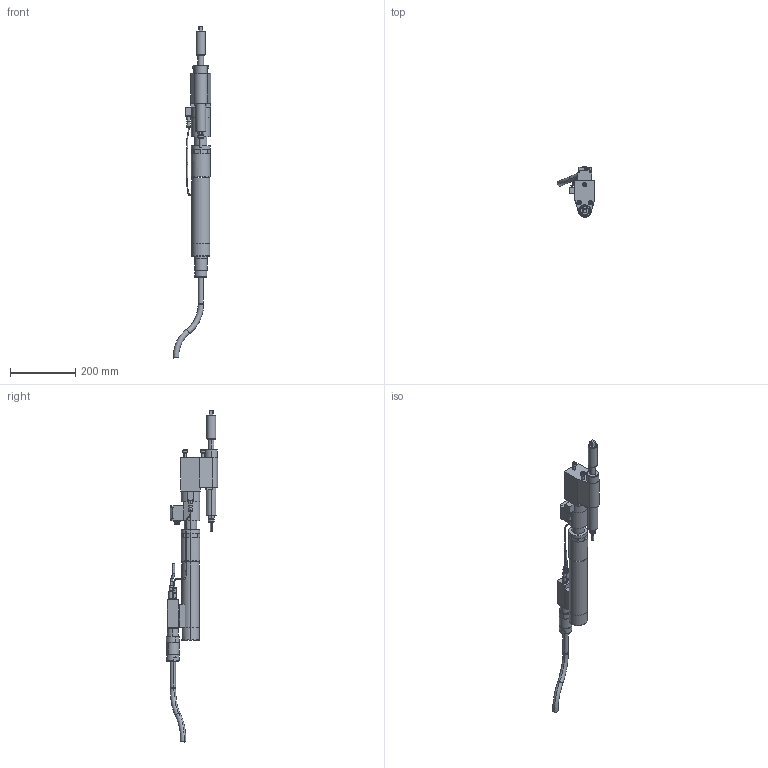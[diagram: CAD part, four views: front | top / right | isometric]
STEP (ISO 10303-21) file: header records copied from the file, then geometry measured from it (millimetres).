
FILE_DESCRIPTION(('CATIA V5 STEP Exchange'),'2;1');
FILE_NAME('C:\pro\7920191_ECR205_DWR63_W2_AOD225-63_AllCATPart.stp','2008-11-10T09:30:35+00:00',('none'),('none'),'CATIA Version 5 Release 17 (IN-10)','CATIA V5 STEP AP203','none');
FILE_SCHEMA(('CONFIG_CONTROL_DESIGN'));
Length unit declared in the file: millimetre
Products named in the file (1): 7920191_ECR205_DWR63_W2_AOD225-63_AllCATPart
Bounding box: 113.82 x 157.13 x 1017.06 mm (x, y, z)
Volume: 2296384.1 mm3; surface area: 252404 mm2
Topology: 20 solids, 20 shells, 568 faces, 1302 edges, 817 vertices
Faces by surface type: plane 268, cylinder 194, cone 62, torus 40, bspline 4
Entity records: 15336 total; most frequent: CARTESIAN_POINT 3298, ORIENTED_EDGE 2584, DIRECTION 2084, EDGE_CURVE 1292, AXIS2_PLACEMENT_3D 991, VERTEX_POINT 817, VECTOR 674, LINE 674
